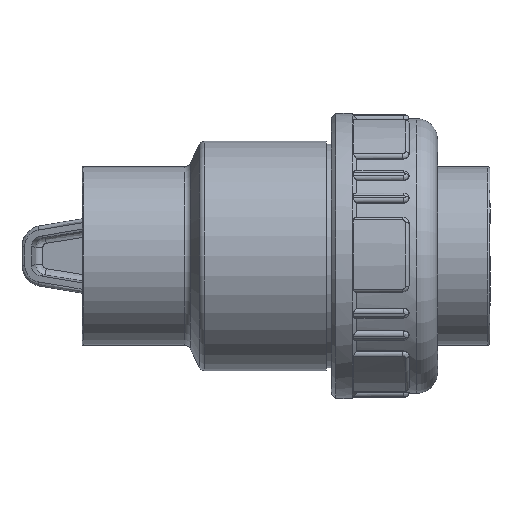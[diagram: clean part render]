
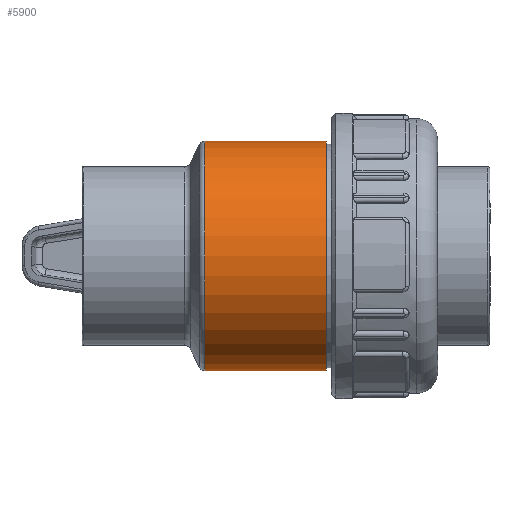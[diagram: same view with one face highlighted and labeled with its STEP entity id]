
A CAD part, left-side view. The second image highlights one B-rep face of the part: STEP entity #5900.
In plain terms, the highlighted cylindrical face has radius 27.35 mm (diameter 54.7 mm), a full revolution.
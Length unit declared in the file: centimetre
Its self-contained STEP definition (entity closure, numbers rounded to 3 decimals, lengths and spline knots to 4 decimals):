
#192=FACE_BOUND('',#1073,.T.);
#193=FACE_BOUND('',#1074,.T.);
#271=CIRCLE('',#6318,2.735);
#274=CIRCLE('',#6323,2.735);
#551=CYLINDRICAL_SURFACE('',#6322,2.735);
#711=FACE_OUTER_BOUND('',#1072,.T.);
#1072=EDGE_LOOP('',(#4009));
#1073=EDGE_LOOP('',(#4010));
#1074=EDGE_LOOP('',(#4011));
#2044=B_SPLINE_CURVE_WITH_KNOTS('',3,(#9386,#9387,#9388,#9389,#9390,#9391,
#9392,#9393,#9394,#9395,#9396,#9397,#9398,#9399,#9400,#9401,#9402,#9403),
 .UNSPECIFIED.,.T.,.F.,(4,1,1,1,1,1,1,1,1,1,1,1,1,1,1,4),(-7.5641,
-7.0238,-6.4835,-5.9432,-5.4029,
-4.8626,-4.3223,-3.9622,-3.602,
-3.2418,-2.8816,-2.1612,-1.6209,
-1.0806,-0.5403,0.),.UNSPECIFIED.);
#2352=VERTEX_POINT('',#9375);
#2355=VERTEX_POINT('',#9383);
#2356=VERTEX_POINT('',#9385);
#2966=EDGE_CURVE('',#2352,#2352,#271,.T.);
#2969=EDGE_CURVE('',#2355,#2355,#274,.T.);
#2970=EDGE_CURVE('',#2356,#2356,#2044,.T.);
#4009=ORIENTED_EDGE('',*,*,#2969,.T.);
#4010=ORIENTED_EDGE('',*,*,#2970,.F.);
#4011=ORIENTED_EDGE('',*,*,#2966,.F.);
#5900=ADVANCED_FACE('',(#711,#192,#193),#551,.T.);
#6318=AXIS2_PLACEMENT_3D('',#9376,#7114,#7115);
#6322=AXIS2_PLACEMENT_3D('',#9382,#7122,#7123);
#6323=AXIS2_PLACEMENT_3D('',#9384,#7124,#7125);
#7114=DIRECTION('center_axis',(0.,1.,0.));
#7115=DIRECTION('ref_axis',(1.,0.,0.));
#7122=DIRECTION('center_axis',(0.,1.,0.));
#7123=DIRECTION('ref_axis',(-1.,0.,0.));
#7124=DIRECTION('center_axis',(0.,1.,0.));
#7125=DIRECTION('ref_axis',(-1.,0.,0.));
#9375=CARTESIAN_POINT('',(-2.735,1.5456,0.));
#9376=CARTESIAN_POINT('Origin',(0.,1.5456,
0.));
#9382=CARTESIAN_POINT('Origin',(0.,-0.56,0.));
#9383=CARTESIAN_POINT('',(2.735,-1.35,0.));
#9384=CARTESIAN_POINT('Origin',(0.,-1.35,0.));
#9385=CARTESIAN_POINT('',(2.432,0.,1.2513));
#9386=CARTESIAN_POINT('Ctrl Pts',(2.4318,0.,
1.2514));
#9387=CARTESIAN_POINT('Ctrl Pts',(2.4318,-0.1915,1.2514));
#9388=CARTESIAN_POINT('Ctrl Pts',(2.4805,-0.5746,1.162));
#9389=CARTESIAN_POINT('Ctrl Pts',(2.6263,-1.0184,0.8093));
#9390=CARTESIAN_POINT('Ctrl Pts',(2.7393,-1.2755,0.2944));
#9391=CARTESIAN_POINT('Ctrl Pts',(2.7395,-1.2753,-0.2945));
#9392=CARTESIAN_POINT('Ctrl Pts',(2.626,-1.0188,-0.8092));
#9393=CARTESIAN_POINT('Ctrl Pts',(2.4971,-0.6231,-1.1227));
#9394=CARTESIAN_POINT('Ctrl Pts',(2.4297,-0.1948,-1.2559));
#9395=CARTESIAN_POINT('Ctrl Pts',(2.4296,0.1949,-1.2561));
#9396=CARTESIAN_POINT('Ctrl Pts',(2.4873,0.5619,-1.1414));
#9397=CARTESIAN_POINT('Ctrl Pts',(2.6065,0.9763,-0.8613));
#9398=CARTESIAN_POINT('Ctrl Pts',(2.7399,1.2752,-0.3604));
#9399=CARTESIAN_POINT('Ctrl Pts',(2.7392,1.2756,0.2946));
#9400=CARTESIAN_POINT('Ctrl Pts',(2.6263,1.0183,0.809));
#9401=CARTESIAN_POINT('Ctrl Pts',(2.4805,0.5746,1.1621));
#9402=CARTESIAN_POINT('Ctrl Pts',(2.4318,0.1915,1.2515));
#9403=CARTESIAN_POINT('Ctrl Pts',(2.4318,0.,
1.2514));
